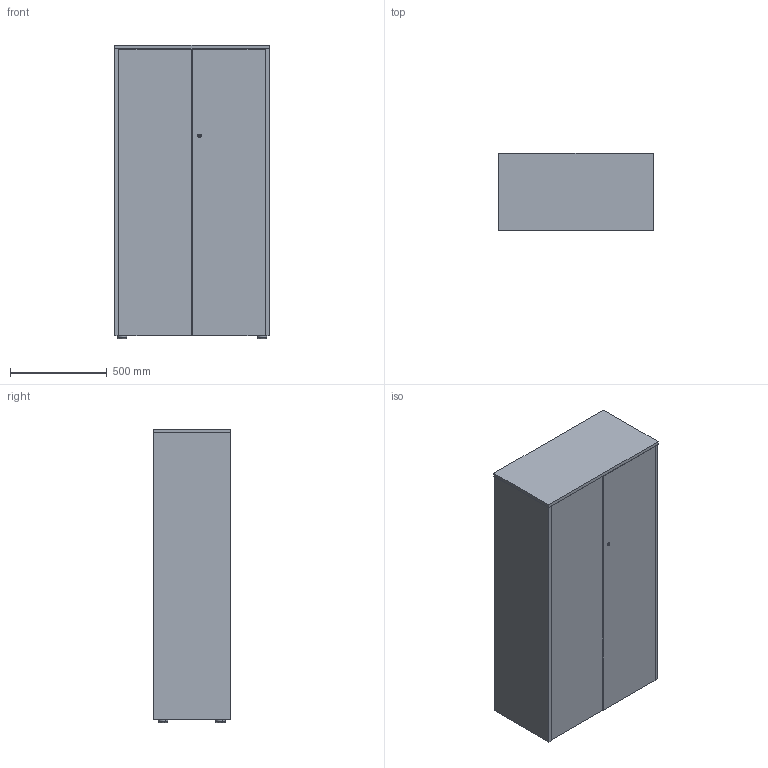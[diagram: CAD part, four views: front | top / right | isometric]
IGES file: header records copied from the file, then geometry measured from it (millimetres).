
Start section: SolidWorks IGES file using analytic representation for surfaces
Global section: file name: C:\Documents and Settings\mbiesiadecki\Moje dokumenty\MEBLE\SYSTEMY BIUROWE\6 VANCOUVER\VANCOUVER - Piktogramy\Vri-pikt-NT\Vr 28bdr-t01\Vr-48bdr-t01.IGS; native system: SolidWorks 2011; preprocessor: SolidWorks 2011; author: mbiesiadecki; date: 110923.160405; units: millimetre
Bounding box: 801 x 400.2 x 1519 mm (x, y, z)
Volume: 71572202.6 mm3; surface area: 8285909.8 mm2
Topology: 4 solids, 4 shells, 98 faces, 230 edges, 146 vertices
Faces by surface type: plane 64, revolution 34
